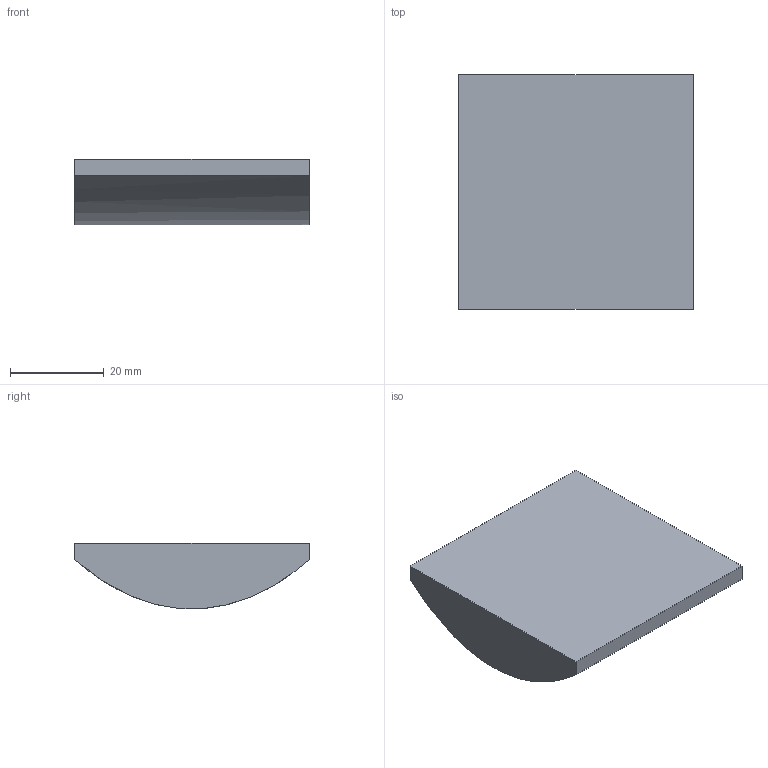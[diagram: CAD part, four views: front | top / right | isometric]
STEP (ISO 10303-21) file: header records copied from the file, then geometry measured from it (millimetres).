
FILE_DESCRIPTION ((), '1');
FILE_NAME ('\\fileserver\Daten\Applikationen\Optikdesign\SPA-Design\aktuelle SPA-Designs\Linsenkataloge - 2016-Juni\Zemax\CHL\CHL50-40.STP', '2016-05-24T14:28:07', ('Unknown'), ('Unknown'), 'HarmonyWare STEP v2.0.1', 'HarmonyWare Translators', '');
FILE_SCHEMA (('CONFIG_CONTROL_DESIGN'));
Length unit declared in the file: millimetre
Products named in the file (1): NONE
Bounding box: 50 x 50 x 13.9 mm (x, y, z)
Volume: 26349.1 mm3; surface area: 6672.5 mm2
Topology: 1 solids, 1 shells, 6 faces, 12 edges, 8 vertices
Faces by surface type: plane 3, bspline 3
Entity records: 420 total; most frequent: CARTESIAN_POINT 237, ORIENTED_EDGE 24, B_SPLINE_CURVE_WITH_KNOTS 12, EDGE_CURVE 12, VERTEX_POINT 8, PERSON 8, ORGANIZATION 8, PERSON_AND_ORGANIZATION 8
